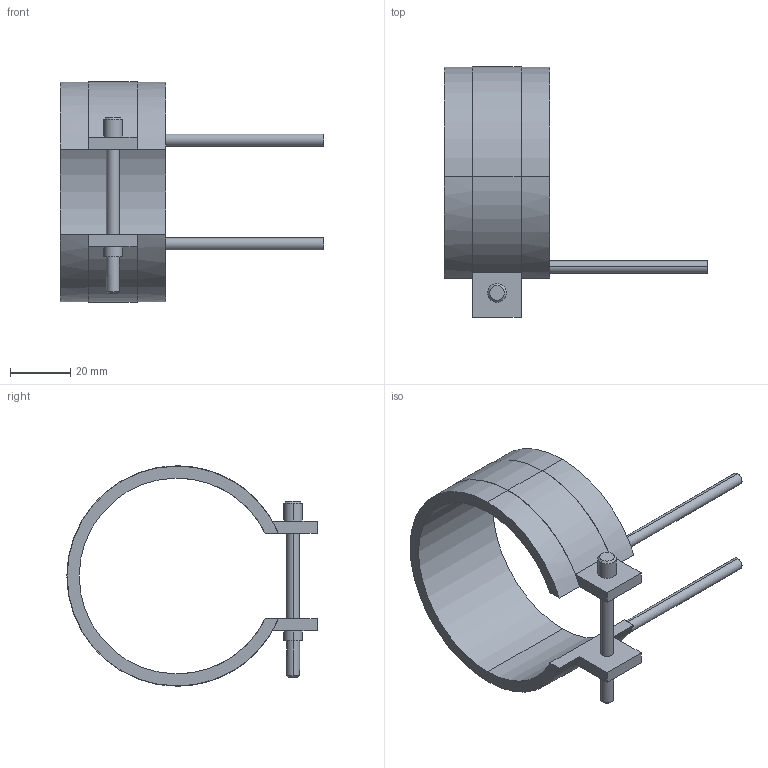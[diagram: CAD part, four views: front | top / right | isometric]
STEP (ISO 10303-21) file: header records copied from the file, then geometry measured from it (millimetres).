
FILE_DESCRIPTION(('CATIA V5 STEP Exchange'),'2;1');
FILE_NAME('C:\Users\Utente\Desktop\IO LAVORO\3D X SITO CF\X SITO\PLASTICA\RF2\14065035.stp','2021-04-03T07:56:16+00:00',('none'),('none'),'CATIA Version 5 Release 20 GA (IN-10)','CATIA V5 STEP AP203','none');
FILE_SCHEMA(('CONFIG_CONTROL_DESIGN'));
Length unit declared in the file: millimetre
Products named in the file (1): 14065035
Bounding box: 87.5 x 83.1 x 73.2 mm (x, y, z)
Volume: 30519.7 mm3; surface area: 18084.2 mm2
Topology: 1 solids, 1 shells, 45 faces, 116 edges, 76 vertices
Faces by surface type: cylinder 24, plane 17, cone 4
Entity records: 1406 total; most frequent: CARTESIAN_POINT 280, ORIENTED_EDGE 232, DIRECTION 196, EDGE_CURVE 116, AXIS2_PLACEMENT_3D 104, VERTEX_POINT 76, CIRCLE 62, VECTOR 52
